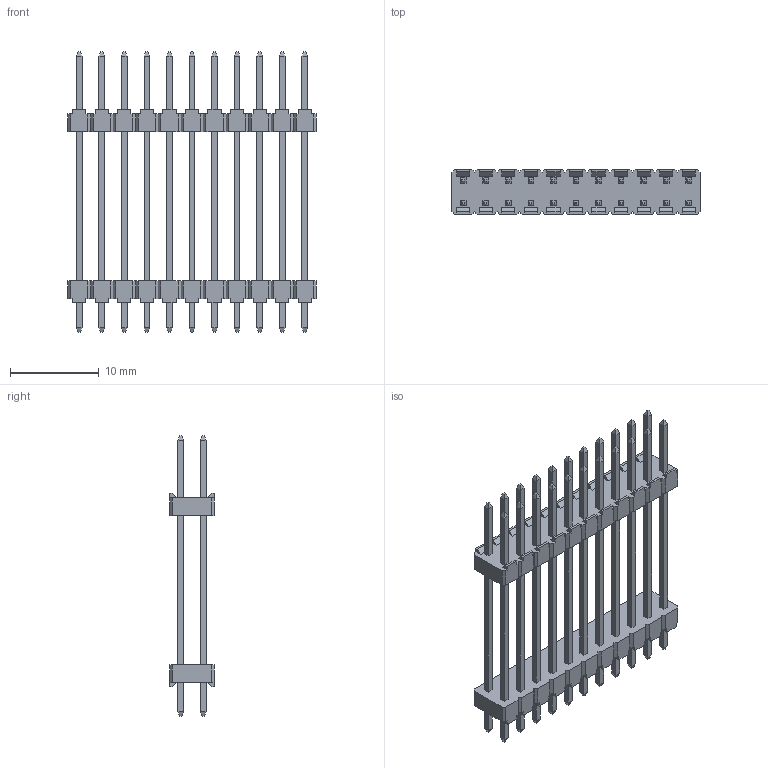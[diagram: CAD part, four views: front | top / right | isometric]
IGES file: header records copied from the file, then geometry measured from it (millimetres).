
Global section: file name: N:\GOLF_VI_2_54mm_UGII\9614XX-X04XX04-XX (TS-2185)\961422-8041404-XX.igs; native system: NX V3.0; preprocessor: UGS NX IGES V4.0; date: 20070618.105152; units: millimetre
Bounding box: 27.94 x 5 x 31.6 mm (x, y, z)
Surface area: 2393.7 mm2 (no closed solid volume)
Topology: 0 solids, 0 shells, 848 faces, 4449 edges, 4449 vertices
Faces by surface type: bspline 848
